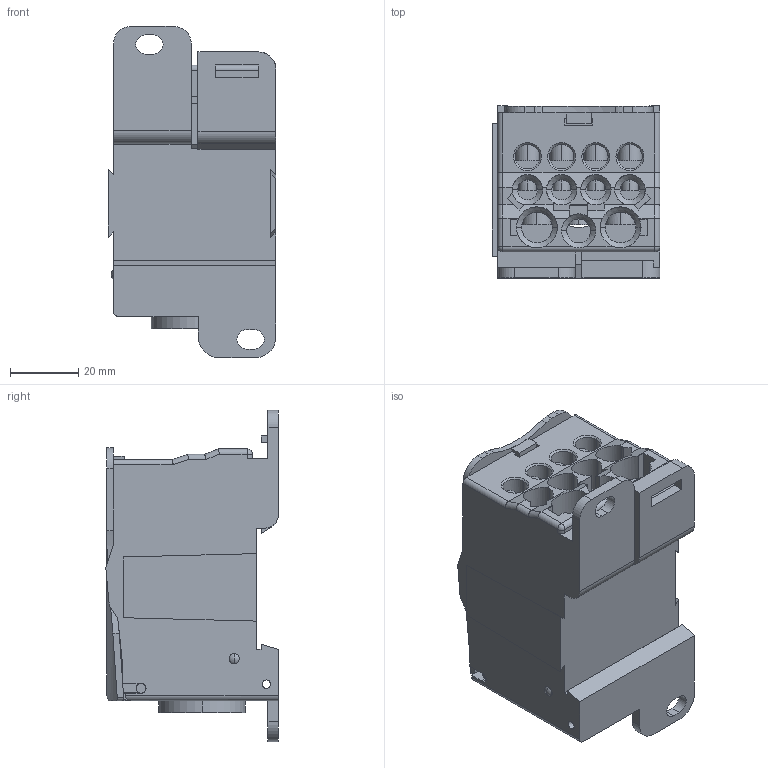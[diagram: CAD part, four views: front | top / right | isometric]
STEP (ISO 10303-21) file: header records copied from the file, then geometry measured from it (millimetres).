
FILE_DESCRIPTION (( 'STEP AP203' ), '1' );
FILE_NAME ('BDA250.STEP', '2018-08-10T20:00:41', ( '' ), ( '' ), 'SwSTEP 2.0', 'SolidWorks 2012', '' );
FILE_SCHEMA (( 'CONFIG_CONTROL_DESIGN' ));
Length unit declared in the file: millimetre
Products named in the file (1): BDA250
Bounding box: 49.1 x 50.5 x 97 mm (x, y, z)
Volume: 99710 mm3; surface area: 45824.7 mm2
Topology: 1 solids, 1 shells, 567 faces, 1591 edges, 1037 vertices
Faces by surface type: plane 338, cylinder 198, cone 24, sphere 4, bspline 2, torus 1
Entity records: 19839 total; most frequent: CARTESIAN_POINT 4944, ORIENTED_EDGE 3178, DIRECTION 2993, EDGE_CURVE 1589, VERTEX_POINT 1037, VECTOR 1033, LINE 1033, AXIS2_PLACEMENT_3D 980
